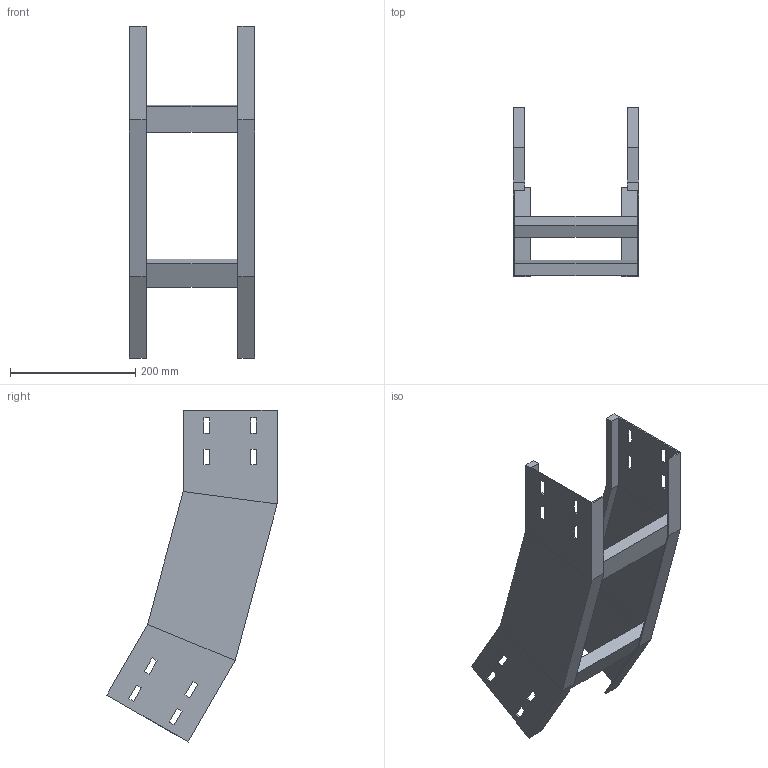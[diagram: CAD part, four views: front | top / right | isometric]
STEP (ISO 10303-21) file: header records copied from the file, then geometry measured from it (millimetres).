
FILE_DESCRIPTION (( 'STEP AP214' ), '1' );
FILE_NAME ('32J5F200.step', '2025-02-21T16:25:38', ( '' ), ( '' ), 'SwSTEP 2.0', 'SolidWorks 2023', '' );
FILE_SCHEMA (( 'AUTOMOTIVE_DESIGN' ));
Length unit declared in the file: millimetre
Products named in the file (3): 32J5F200; TRAVERSINO_200; LONGH.SALITA_30°_H150_R500
Assembly tree (4 placements, depth 2):
  32J5F200
    LONGH.SALITA_30°_H150_R500  x2
    TRAVERSINO_200  x2
Bounding box: 200 x 271.94 x 530.08 mm (x, y, z)
Volume: 863406.5 mm3; surface area: 450444.7 mm2
Topology: 4 solids, 4 shells, 128 faces, 328 edges, 208 vertices
Faces by surface type: plane 128
Entity records: 2016 total; most frequent: CARTESIAN_POINT 339, ORIENTED_EDGE 328, DIRECTION 306, EDGE_CURVE 164, VECTOR 164, LINE 164, VERTEX_POINT 104, EDGE_LOOP 80
